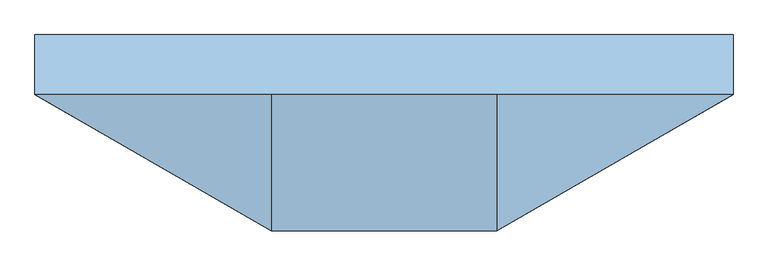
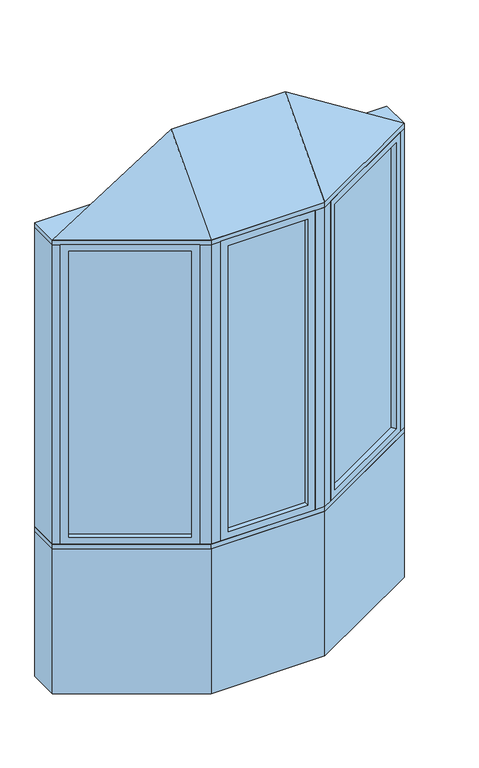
"""IFC4 building model written with IfcOpenShell, lengths in millimetres: window geometry, Pollard_Windows_Tudor Casement Bows and Bays : AML-BAY 30 AFR0516-08-600."""

from ifc_helpers import new_model, si_unit, frame, origin, origin_with_axes, place, context, project, spatial, polyline, outline, extrude, faceted_brep, source, transform, mapped, element, save


def window_4abde0ae(model_context):
    return source(origin(), model_context, "Body", "SolidModel", [
        extrude(outline(polyline([(826.612102, -82.0482469), (338.3834764, -363.9271754), (335.8434764, -359.5277664), (824.072102, -77.6488379), (826.612102, -82.0482469)])), frame((0.0, 0.0, 823.1628), z_axis=(0.0, 0.0, 1.0), x_axis=(1.0, 0.0, 0.0)), (0.0, 0.0, 1.0), 1553.6704),
        faceted_brep([(815.6135794, -88.3982469, 835.8628), (828.3135794, -110.3952922, 835.8628), (828.3135794, -110.3952922, 2364.1332), (815.6135794, -88.3982469, 2364.1332), (824.072102, -77.6488379, 823.1628), (826.612102, -82.0482469, 823.1628), (826.612102, -82.0482469, 2376.8332), (824.072102, -77.6488379, 2376.8332), (800.3735794, -62.0017926, 835.8628), (813.0735794, -83.9988379, 835.8628), (813.0735794, -83.9988379, 2364.1332), (800.3735794, -62.0017926, 2364.1332), (859.3734073, -92.4628922, 799.998), (831.4334073, -44.0693926, 799.998), (831.4334073, -44.0693926, 2399.998), (859.3734073, -92.4628922, 2399.998), (362.081999, -379.5742207, 2364.1332), (349.381999, -357.5771754, 2364.1332), (338.3834764, -363.9271754, 2376.8332), (335.8434764, -359.5277664, 2376.8332), (346.841999, -353.1777664, 2364.1332), (334.141999, -331.1807211, 2364.1332), (303.0821711, -349.1131211, 2399.998), (331.0221711, -397.5066207, 2399.998), (362.081999, -379.5742207, 835.8628), (349.381999, -357.5771754, 835.8628), (338.3834764, -363.9271754, 823.1628), (335.8434764, -359.5277664, 823.1628), (346.841999, -353.1777664, 835.8628), (334.141999, -331.1807211, 835.8628), (303.0821711, -349.1131211, 799.998), (331.0221711, -397.5066207, 799.998)], [[[0, 1, 2, 3]], [[4, 5, 6, 7]], [[8, 9, 10, 11]], [[12, 13, 14, 15]], [[3, 2, 16, 17]], [[7, 6, 18, 19]], [[11, 10, 20, 21]], [[15, 14, 22, 23]], [[17, 16, 24, 25]], [[19, 18, 26, 27]], [[21, 20, 28, 29]], [[23, 22, 30, 31]], [[25, 24, 1, 0]], [[5, 26, 18, 6], [3, 17, 25, 0]], [[27, 26, 5, 4]], [[7, 19, 27, 4], [9, 28, 20, 10]], [[29, 28, 9, 8]], [[13, 30, 22, 14], [11, 21, 29, 8]], [[31, 30, 13, 12]], [[15, 23, 31, 12], [1, 24, 16, 2]]]),
        extrude(outline(polyline([(-338.3834764, -363.9271754), (-826.612102, -82.0482469), (-824.072102, -77.6488379), (-335.8434764, -359.5277664), (-338.3834764, -363.9271754)])), frame((0.0, 0.0, 823.1628), z_axis=(0.0, 0.0, 1.0), x_axis=(1.0, 0.0, 0.0)), (0.0, 0.0, 1.0), 1553.6704),
        faceted_brep([(-346.841999, -353.1777664, 2364.1332), (-334.141999, -331.1807211, 2364.1332), (-334.141999, -331.1807211, 835.8628), (-346.841999, -353.1777664, 835.8628), (-338.3834764, -363.9271754, 2376.8332), (-335.8434764, -359.5277664, 2376.8332), (-335.8434764, -359.5277664, 823.1628), (-338.3834764, -363.9271754, 823.1628), (-362.081999, -379.5742207, 2364.1332), (-349.381999, -357.5771754, 2364.1332), (-349.381999, -357.5771754, 835.8628), (-362.081999, -379.5742207, 835.8628), (-303.0821711, -349.1131211, 2399.998), (-331.0221711, -397.5066207, 2399.998), (-331.0221711, -397.5066207, 799.998), (-303.0821711, -349.1131211, 799.998), (-800.3735794, -62.0017926, 835.8628), (-813.0735794, -83.9988379, 835.8628), (-824.072102, -77.6488379, 823.1628), (-826.612102, -82.0482469, 823.1628), (-815.6135794, -88.3982469, 835.8628), (-828.3135794, -110.3952922, 835.8628), (-859.3734073, -92.4628922, 799.998), (-831.4334073, -44.0693926, 799.998), (-800.3735794, -62.0017926, 2364.1332), (-813.0735794, -83.9988379, 2364.1332), (-824.072102, -77.6488379, 2376.8332), (-826.612102, -82.0482469, 2376.8332), (-815.6135794, -88.3982469, 2364.1332), (-828.3135794, -110.3952922, 2364.1332), (-859.3734073, -92.4628922, 2399.998), (-831.4334073, -44.0693926, 2399.998)], [[[0, 1, 2, 3]], [[4, 5, 6, 7]], [[8, 9, 10, 11]], [[12, 13, 14, 15]], [[3, 2, 16, 17]], [[7, 6, 18, 19]], [[11, 10, 20, 21]], [[15, 14, 22, 23]], [[17, 16, 24, 25]], [[19, 18, 26, 27]], [[21, 20, 28, 29]], [[23, 22, 30, 31]], [[15, 23, 31, 12], [1, 24, 16, 2]], [[25, 24, 1, 0]], [[5, 26, 18, 6], [3, 17, 25, 0]], [[27, 26, 5, 4]], [[7, 19, 27, 4], [9, 28, 20, 10]], [[29, 28, 9, 8]], [[13, 30, 22, 14], [11, 21, 29, 8]], [[31, 30, 13, 12]]]),
        extrude(outline(polyline([(214.5561009, -397.1066207), (-214.5561009, -397.1066207), (-214.5561009, -392.0266207), (214.5561009, -392.0266207), (214.5561009, -397.1066207)])), frame((0.0, 0.0, 823.1628), z_axis=(0.0, 0.0, 1.0), x_axis=(1.0, 0.0, 0.0)), (0.0, 0.0, 1.0), 1553.6704),
        faceted_brep([(201.8561009, -397.1066207, 835.8628), (201.8561009, -422.5066207, 835.8628), (201.8561009, -422.5066207, 2364.1332), (201.8561009, -397.1066207, 2364.1332), (214.5561009, -392.0266207, 823.1628), (214.5561009, -397.1066207, 823.1628), (214.5561009, -397.1066207, 2376.8332), (214.5561009, -392.0266207, 2376.8332), (201.8561009, -366.6266207, 835.8628), (201.8561009, -392.0266207, 835.8628), (201.8561009, -392.0266207, 2364.1332), (201.8561009, -366.6266207, 2364.1332), (237.7209009, -422.5066207, 799.998), (237.7209009, -366.6266207, 799.998), (237.7209009, -366.6266207, 2399.998), (237.7209009, -422.5066207, 2399.998), (-201.8561009, -422.5066207, 2364.1332), (-201.8561009, -397.1066207, 2364.1332), (-214.5561009, -397.1066207, 2376.8332), (-214.5561009, -392.0266207, 2376.8332), (-201.8561009, -392.0266207, 2364.1332), (-201.8561009, -366.6266207, 2364.1332), (-237.7209009, -366.6266207, 2399.998), (-237.7209009, -422.5066207, 2399.998), (-201.8561009, -422.5066207, 835.8628), (-201.8561009, -397.1066207, 835.8628), (-214.5561009, -397.1066207, 823.1628), (-214.5561009, -392.0266207, 823.1628), (-201.8561009, -392.0266207, 835.8628), (-201.8561009, -366.6266207, 835.8628), (-237.7209009, -366.6266207, 799.998), (-237.7209009, -422.5066207, 799.998)], [[[0, 1, 2, 3]], [[4, 5, 6, 7]], [[8, 9, 10, 11]], [[12, 13, 14, 15]], [[3, 2, 16, 17]], [[7, 6, 18, 19]], [[11, 10, 20, 21]], [[15, 14, 22, 23]], [[17, 16, 24, 25]], [[19, 18, 26, 27]], [[21, 20, 28, 29]], [[23, 22, 30, 31]], [[15, 23, 31, 12], [1, 24, 16, 2]], [[25, 24, 1, 0]], [[5, 26, 18, 6], [3, 17, 25, 0]], [[27, 26, 5, 4]], [[7, 19, 27, 4], [9, 28, 20, 10]], [[29, 28, 9, 8]], [[13, 30, 22, 14], [11, 21, 29, 8]], [[31, 30, 13, 12]]]),
        faceted_brep([(890.0, -74.7806207, 2425.398), (287.7209009, -422.5066207, 2425.398), (-287.7209009, -422.5066207, 2425.398), (-890.0, -74.7806207, 2425.398), (-287.7209009, -74.7806207, 2806.398), (287.7209009, -74.7806207, 2806.398)], [[[0, 1, 2, 3]], [[3, 2, 4]], [[2, 1, 5, 4]], [[1, 0, 5]], [[0, 3, 4, 5]]]),
        extrude(outline(polyline([(-890.0, 77.6193793), (890.0, 77.6193793), (890.0, -74.7806207), (287.7209009, -422.5066207), (-287.7209009, -422.5066207), (-890.0, -74.7806207), (-890.0, 77.6193793)])), frame((0.0, 0.0, 2399.998), z_axis=(0.0, 0.0, 1.0), x_axis=(1.0, 0.0, 0.0)), (0.0, 0.0, 1.0), 25.4),
        extrude(outline(polyline([(-890.0, -74.7806207), (-890.0, 77.6193793), (-849.1645431, 77.6193793), (-849.1645431, -74.7806207), (-859.3734073, -92.4628922), (-890.0, -74.7806207)])), frame((0.0, 0.0, 799.998), z_axis=(0.0, 0.0, 1.0), x_axis=(1.0, 0.0, 0.0)), (0.0, 0.0, 1.0), 1600.0),
        extrude(outline(polyline([(890.0, 77.6193793), (890.0, -74.7806207), (859.3734073, -92.4628922), (849.1645431, -74.7806207), (849.1645431, 77.6193793), (890.0, 77.6193793)])), frame((0.0, 0.0, 799.998), z_axis=(0.0, 0.0, 1.0), x_axis=(1.0, 0.0, 0.0)), (0.0, 0.0, 1.0), 1600.0),
        extrude(outline(polyline([(287.7209009, -422.5066207), (237.7209009, -422.5066207), (237.7209009, -372.5066207), (274.3234413, -372.5066207), (306.0221711, -354.2053505), (331.0221711, -397.5066207), (287.7209009, -422.5066207)])), frame((0.0, 0.0, 799.998), z_axis=(0.0, 0.0, 1.0), x_axis=(1.0, 0.0, 0.0)), (0.0, 0.0, 1.0), 1600.0),
        extrude(outline(polyline([(-287.7209009, -422.5066207), (-331.0221711, -397.5066207), (-306.0221711, -354.2053505), (-274.3234413, -372.5066207), (-237.7209009, -372.5066207), (-237.7209009, -422.5066207), (-287.7209009, -422.5066207)])), frame((0.0, 0.0, 799.998), z_axis=(0.0, 0.0, 1.0), x_axis=(1.0, 0.0, 0.0)), (0.0, 0.0, 1.0), 1600.0),
        extrude(outline(polyline([(-287.7209009, -422.5066207), (-890.0, -74.7806207), (-890.0, 77.6193793), (-849.1645431, 77.6193793), (-246.885444, -270.1066207), (246.885444, -270.1066207), (849.1645431, 77.6193793), (890.0, 77.6193793), (890.0, -74.7806207), (287.7209009, -422.5066207), (-287.7209009, -422.5066207)])), frame((0.0, 0.0, 774.598), z_axis=(0.0, 0.0, 1.0), x_axis=(1.0, 0.0, 0.0)), (0.0, 0.0, 1.0), 25.4),
        extrude(outline(polyline([(-890.0, -74.7806207), (-890.0, 77.6193793), (-849.1645431, 77.6193793), (-246.885444, -270.1066207), (246.885444, -270.1066207), (849.1645431, 77.6193793), (890.0, 77.6193793), (890.0, -74.7806207), (287.7209009, -422.5066207), (-287.7209009, -422.5066207), (-890.0, -74.7806207)])), origin_with_axes(), (0.0, 0.0, 1.0), 774.598),
    ])


if __name__ == "__main__":
    model = new_model("IFC4")
    model_context = context("Model", 3, world=origin())
    ifc_project = project(units=[si_unit("LENGTHUNIT", "METRE", prefix="MILLI")], contexts=[model_context])
    site = spatial("IfcSite", under=ifc_project)
    building = spatial("IfcBuilding", under=site)
    placement = place(None, origin())
    window_shape = window_4abde0ae(model_context)
    element("IfcWindow", 1, ObjectType="Pollard_Windows_Tudor Casement Bows and Bays : AML-BAY 30 AFR0516-08-600", at=placement, inside=building, context=model_context, shape_type="MappedRepresentation", body=[
        mapped(window_shape, transform((0.0, 0.0, 0.0), x_axis=(1.0, 0.0, 0.0), y_axis=(0.0, 1.0, 0.0), z_axis=(0.0, 0.0, 1.0))),
    ])
    save(model, "model.ifc")
